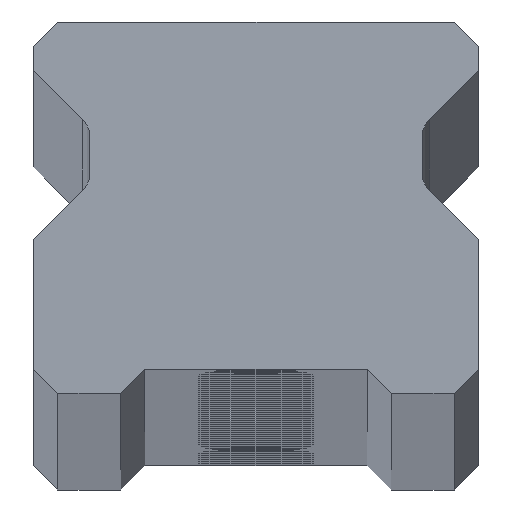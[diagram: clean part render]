
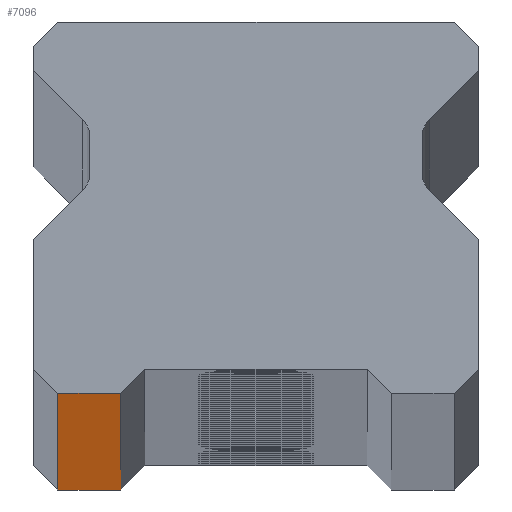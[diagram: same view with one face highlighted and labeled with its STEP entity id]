
A CAD part, top view. The second image highlights one B-rep face of the part: STEP entity #7096.
In plain terms, the highlighted planar face has unit normal (0, -1, 0).
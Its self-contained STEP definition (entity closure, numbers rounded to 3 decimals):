
#170 = VERTEX_POINT ( 'NONE', #3798 ) ;
#754 = DIRECTION ( 'NONE',  ( 1., 0., 0. ) ) ;
#785 = ORIENTED_EDGE ( 'NONE', *, *, #1579, .T. ) ;
#996 = VECTOR ( 'NONE', #6336, 1000. ) ;
#1358 = EDGE_LOOP ( 'NONE', ( #785, #9206, #4692, #2403 ) ) ;
#1579 = EDGE_CURVE ( 'NONE', #2779, #1702, #4731, .T. ) ;
#1678 = CARTESIAN_POINT ( 'NONE',  ( 11.5, 0., 1430. ) ) ;
#1702 = VERTEX_POINT ( 'NONE', #5064 ) ;
#1906 = CARTESIAN_POINT ( 'NONE',  ( -10.25, 0., -1430. ) ) ;
#2211 = CARTESIAN_POINT ( 'NONE',  ( -10.25, 0., 1430. ) ) ;
#2347 = CARTESIAN_POINT ( 'NONE',  ( 11.5, 0., 1430. ) ) ;
#2403 = ORIENTED_EDGE ( 'NONE', *, *, #5962, .T. ) ;
#2779 = VERTEX_POINT ( 'NONE', #1906 ) ;
#2815 = CARTESIAN_POINT ( 'NONE',  ( -10.25, 0., 1430. ) ) ;
#3258 = PLANE ( 'NONE',  #7168 ) ;
#3285 = VECTOR ( 'NONE', #754, 1000. ) ;
#3413 = CARTESIAN_POINT ( 'NONE',  ( -7., 0., -1430. ) ) ;
#3798 = CARTESIAN_POINT ( 'NONE',  ( -7., 0., 1430. ) ) ;
#4692 = ORIENTED_EDGE ( 'NONE', *, *, #5222, .F. ) ;
#4731 = LINE ( 'NONE', #9329, #9737 ) ;
#5049 = LINE ( 'NONE', #2815, #9349 ) ;
#5064 = CARTESIAN_POINT ( 'NONE',  ( -7., 0., -1430. ) ) ;
#5222 = EDGE_CURVE ( 'NONE', #9582, #170, #9255, .T. ) ;
#5669 = DIRECTION ( 'NONE',  ( 1., 0., 0. ) ) ;
#5962 = EDGE_CURVE ( 'NONE', #9582, #2779, #5049, .T. ) ;
#6336 = DIRECTION ( 'NONE',  ( 0., 0., 1. ) ) ;
#6905 = LINE ( 'NONE', #3413, #996 ) ;
#6958 = DIRECTION ( 'NONE',  ( 0., 1., 0. ) ) ;
#7030 = FACE_OUTER_BOUND ( 'NONE', #1358, .T. ) ;
#7096 = ADVANCED_FACE ( 'NONE', ( #7030 ), #3258, .F. ) ;
#7168 = AXIS2_PLACEMENT_3D ( 'NONE', #1678, #6958, #9210 ) ;
#7175 = EDGE_CURVE ( 'NONE', #1702, #170, #6905, .T. ) ;
#7292 = DIRECTION ( 'NONE',  ( 0., 0., -1. ) ) ;
#9206 = ORIENTED_EDGE ( 'NONE', *, *, #7175, .T. ) ;
#9210 = DIRECTION ( 'NONE',  ( -1., 0., 0. ) ) ;
#9255 = LINE ( 'NONE', #2347, #3285 ) ;
#9329 = CARTESIAN_POINT ( 'NONE',  ( 11.5, 0., -1430. ) ) ;
#9349 = VECTOR ( 'NONE', #7292, 1000. ) ;
#9582 = VERTEX_POINT ( 'NONE', #2211 ) ;
#9737 = VECTOR ( 'NONE', #5669, 1000. ) ;
